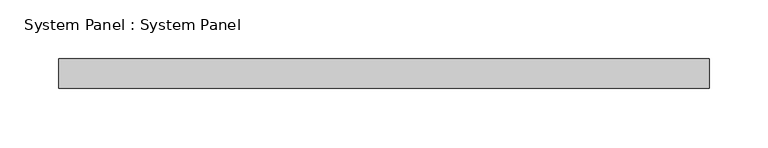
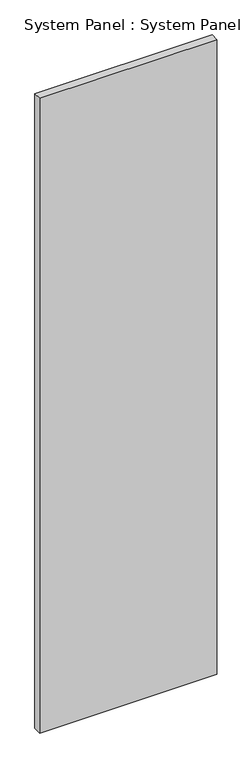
"""IFC4 building model written with IfcOpenShell, lengths in millimetres: plate geometry, System Panel : System Panel."""

from ifc_helpers import new_model, si_unit, origin, origin_with_axes, place, context, project, spatial, polyline, outline, extrude, source, transform, mapped, element, save


def system_panel_system_panel_ddfd2fd1(model_context):
    return source(origin(), model_context, "Body", "SweptSolid", [
        extrude(outline(polyline([(276.306549, 24.5), (-276.306549, 24.5), (-276.306549, 49.5), (276.306549, 49.5), (276.306549, 24.5)])), origin_with_axes(), (0.0, 0.0, 1.0), 2090.1890334),
    ])


if __name__ == "__main__":
    model = new_model("IFC4")
    model_context = context("Model", 3, world=origin())
    ifc_project = project(units=[si_unit("LENGTHUNIT", "METRE", prefix="MILLI")], contexts=[model_context])
    site = spatial("IfcSite", under=ifc_project)
    building = spatial("IfcBuilding", under=site)
    placement = place(None, origin())
    system_panel_system_panel_shape = system_panel_system_panel_ddfd2fd1(model_context)
    element("IfcPlate", 1, ObjectType="System Panel : System Panel", at=placement, inside=building, context=model_context, shape_type="MappedRepresentation", body=[
        mapped(system_panel_system_panel_shape, transform((0.0, 0.0, 0.0), x_axis=(1.0, 0.0, 0.0), y_axis=(0.0, 1.0, 0.0), z_axis=(0.0, 0.0, 1.0))),
    ])
    save(model, "model.ifc")
